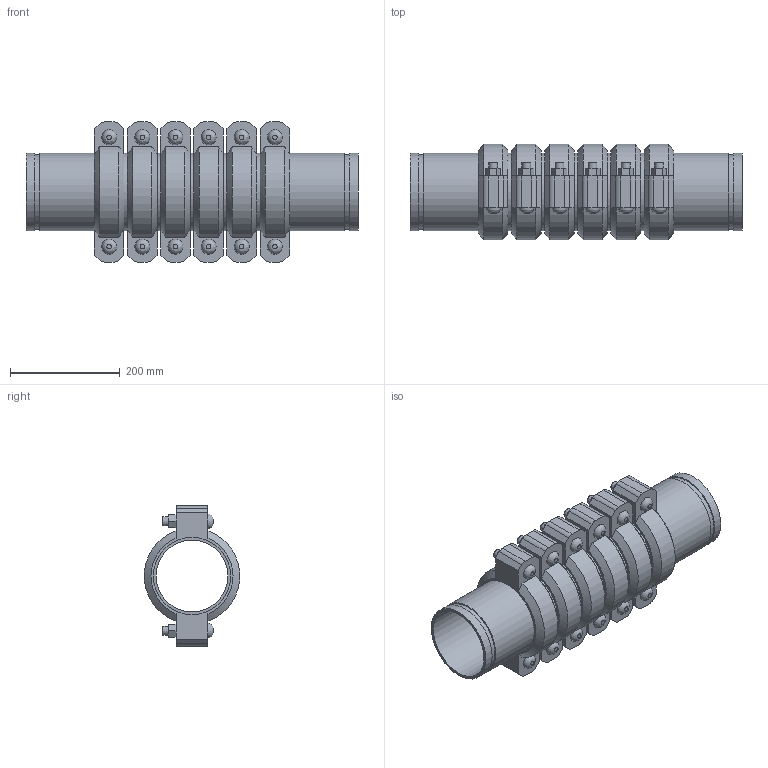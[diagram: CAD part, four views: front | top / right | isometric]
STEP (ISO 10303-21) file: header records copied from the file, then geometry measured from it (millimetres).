
FILE_DESCRIPTION(/* description */ ('VIC EXPANSION JOINT 6 COUPLINGS COMPRESSED STYLE 155 (OGS)','CAx-IF Rec.Pracs.---Representation and Presentation of Product Manufacturing Information (PMI)---4.0---2014-10-13'),/* implementation_level */ '2;1');
FILE_NAME(/* name */ 'C:\Users\kkamble\AppData\Roaming\Autodesk\ApplicationPlugins\Victaulic.Temp\A354\Victaulic_IPS_Expansion Joint_Compressed_6 Couplings_Style 155 (OGS)_5 (125).stp',/* time_stamp */ '2021-06-27T00:31:55+02:00',/* author */ ('kkamble'),/* organization */ ('Victaulic'),/* preprocessor_version */ 'ST-DEVELOPER v17.2',/* originating_system */ 'Autodesk Inventor 2019',/* authorisation */ '');
FILE_SCHEMA (('AP242_MANAGED_MODEL_BASED_3D_ENGINEERING_MIM_LF { 1 0 10303 442 1 1 4 }'));
Length unit declared in the file: inch
Products named in the file (4): 155-05.0; Nipple-05.0; Nipple-05.0_1; 075_6_Coup-05.0
Assembly tree (13 placements, depth 2):
  155-05.0
    Nipple-05.0  x2
    Nipple-05.0_1  x5
    075_6_Coup-05.0  x6
Bounding box: 606.3 x 174.16 x 255.78 mm (x, y, z)
Volume: 5224551.8 mm3; surface area: 1180248.4 mm2
Topology: 13 solids, 25 shells, 426 faces, 1008 edges, 708 vertices
Faces by surface type: plane 258, cylinder 132, cone 24, bspline 12
Full cylindrical faces by diameter (mm): 15.875 x24, 17.424 x12, 130.988 x7, 134.95 x6, 137.033 x14, 141.3 x33
Entity records: 2826 total; most frequent: CARTESIAN_POINT 497, DIRECTION 469, ORIENTED_EDGE 386, EDGE_CURVE 193, AXIS2_PLACEMENT_3D 188, VERTEX_POINT 138, EDGE_LOOP 107, LINE 93
